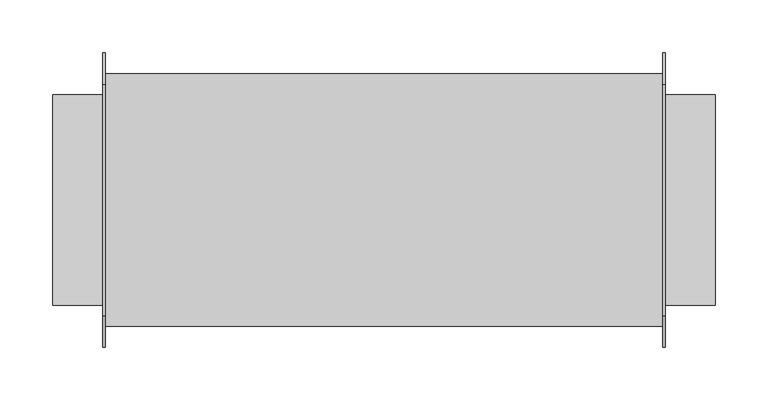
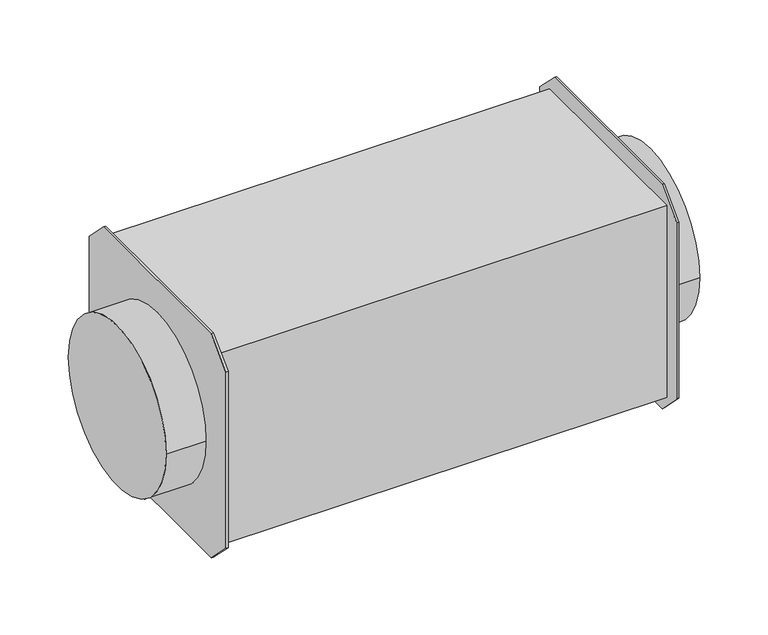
"""IFC4 building model written with IfcOpenShell, lengths in millimetres: unitary equipment geometry, 140_VAV_変風量ユニット_丸ダクト用 : 変風量ユニット_丸ダクト用."""

from ifc_helpers import new_model, si_unit, point, frame, origin, origin_2d, place, context, project, spatial, polyline, circle_curve, trimmed, segment, composite_curve, outline, extrude, source, transform, mapped, element, save


def unitary_equipment_0d0f9f9e(model_context):
    return source(origin(), model_context, "Body", "SweptSolid", [
        extrude(outline(polyline([(-110.0, -140.0), (-140.0, -110.0), (-140.0, 110.0), (-110.0, 140.0), (110.0, 140.0), (140.0, 110.0), (140.0, -110.0), (110.0, -140.0), (-110.0, -140.0)])), frame((265.0, 0.0, 0.0), z_axis=(1.0, 0.0, 0.0), x_axis=(0.0, 1.0, 0.0)), (0.0, 0.0, 1.0), 2.5),
        extrude(outline(polyline([(-110.0, -140.0), (-140.0, -110.0), (-140.0, 110.0), (-110.0, 140.0), (110.0, 140.0), (140.0, 110.0), (140.0, -110.0), (110.0, -140.0), (-110.0, -140.0)])), frame((-267.5, 0.0, 0.0), z_axis=(1.0, 0.0, 0.0), x_axis=(0.0, 1.0, 0.0)), (0.0, 0.0, 1.0), 2.5),
        extrude(outline(composite_curve([segment(trimmed(circle_curve(origin_2d(), 100.0), [point((-100.0, 0.0))], [point((100.0, 0.0))], False, "CARTESIAN"), True, "CONTINUOUS"), segment(trimmed(circle_curve(origin_2d(), 100.0), [point((100.0, 0.0))], [point((-100.0, 0.0))], False, "CARTESIAN"), True, "CONTINUOUS")], self_intersect=False)), frame((265.0, 0.0, 0.0), z_axis=(1.0, 0.0, 0.0), x_axis=(0.0, 1.0, 0.0)), (0.0, 0.0, 1.0), 50.0),
        extrude(outline(composite_curve([segment(trimmed(circle_curve(origin_2d(), 100.0), [point((-100.0, 0.0))], [point((100.0, 0.0))], False, "CARTESIAN"), True, "CONTINUOUS"), segment(trimmed(circle_curve(origin_2d(), 100.0), [point((100.0, 0.0))], [point((-100.0, 0.0))], False, "CARTESIAN"), True, "CONTINUOUS")], self_intersect=False)), frame((-315.0, 0.0, 0.0), z_axis=(1.0, 0.0, 0.0), x_axis=(0.0, 1.0, 0.0)), (0.0, 0.0, 1.0), 50.0),
        extrude(outline(polyline([(265.0, 120.0), (265.0, -120.0), (-265.0, -120.0), (-265.0, 120.0), (265.0, 120.0)])), frame((0.0, 0.0, -120.0), z_axis=(0.0, 0.0, 1.0), x_axis=(1.0, 0.0, 0.0)), (0.0, 0.0, 1.0), 240.0),
    ])


if __name__ == "__main__":
    model = new_model("IFC4")
    model_context = context("Model", 3, world=origin())
    ifc_project = project(units=[si_unit("LENGTHUNIT", "METRE", prefix="MILLI")], contexts=[model_context])
    site = spatial("IfcSite", under=ifc_project)
    building = spatial("IfcBuilding", under=site)
    placement = place(None, origin())
    unitary_equipment_shape = unitary_equipment_0d0f9f9e(model_context)
    element("IfcUnitaryEquipment", 1, ObjectType="140_VAV_変風量ユニット_丸ダクト用 : 変風量ユニット_丸ダクト用", at=placement, inside=building, context=model_context, shape_type="MappedRepresentation", body=[
        mapped(unitary_equipment_shape, transform((0.0, 0.0, 0.0), x_axis=(1.0, 0.0, 0.0), y_axis=(0.0, 1.0, 0.0), z_axis=(0.0, 0.0, 1.0))),
    ])
    save(model, "model.ifc")
